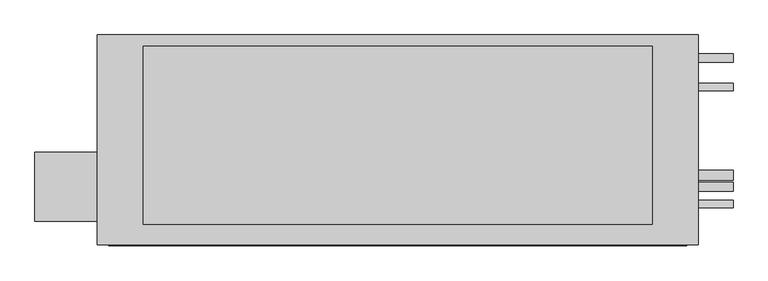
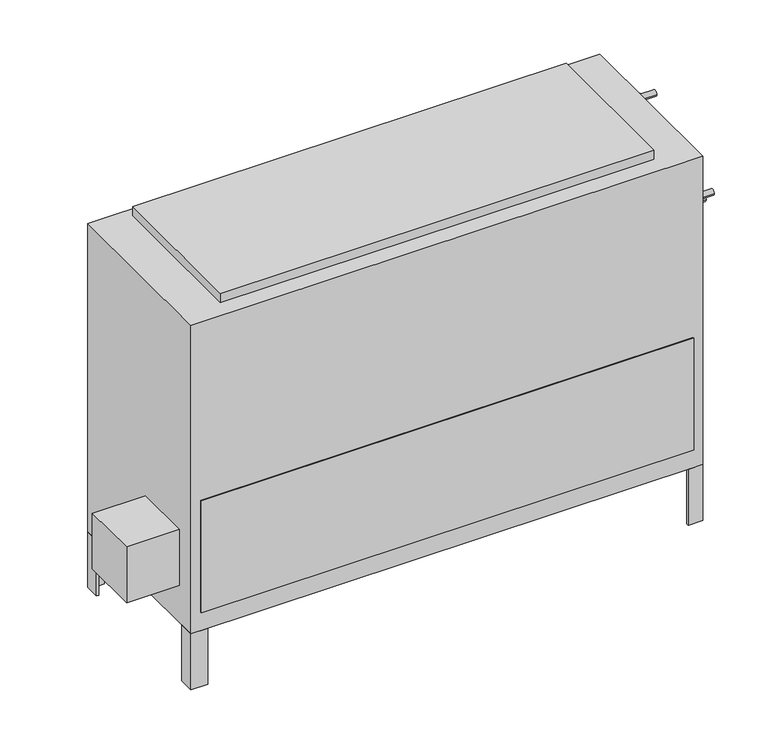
"""IFC4 building model written with IfcOpenShell, lengths in millimetres: proxy geometry, Concealed_High_Capacity_Vertical_Fan_Coil_Unit_-_42DDA_-_CARRIER_-_4-Pipe_RH_2022 : Size 18 - 277v/60Hz/1Ph - 4/2 Coil."""

import ifcopenshell
import ifcopenshell.guid

model = None  # the IFC model being written
_history = None  # IfcOwnerHistory: only IFC2X3 demands one
_inside = {}  # id of a spatial element -> (the spatial element, [elements in it])
_under = {}  # id of a project, library or spatial element -> (it, [spatial elements below it])
_declared = {}  # id of a project -> (the project, [libraries it declares])
_typed = {}  # id of a type object -> (the type object, [elements of that type])
_made_of = {}  # id of a material, layer set ... -> (it, [elements and type objects made of it])


def new_model(schema):
    """Start an empty IFC model of exactly this schema.

    Asked for "IFC4X3", IfcOpenShell would pick the latest addendum, in which some entities
    have other attributes; the version numbers below select the first issue.
    IFC2X3 requires an IfcOwnerHistory on every rooted entity: one is made here for all.
    """
    global model, _history
    if schema == "IFC4X3":
        model = ifcopenshell.file(schema_version=(4, 3, 0, 0))
    else:
        model = ifcopenshell.file(schema=schema)
    _inside.clear()
    _under.clear()
    _declared.clear()
    _typed.clear()
    _made_of.clear()
    _history = None
    if model.schema == "IFC2X3":
        org = make("IfcOrganization", Name="unknown")
        user = make(
            "IfcPersonAndOrganization",
            ThePerson=make("IfcPerson", FamilyName="unknown"),
            TheOrganization=org,
        )
        app = make(
            "IfcApplication",
            ApplicationDeveloper=org,
            Version="unknown",
            ApplicationFullName="unknown",
            ApplicationIdentifier="unknown",
        )
        _history = make(
            "IfcOwnerHistory",
            OwningUser=user,
            OwningApplication=app,
            ChangeAction="ADDED",
            CreationDate=0,
        )
    return model


def make(cls, **values):
    """One entity of the class cls with the attributes given. An attribute that is None is left unset."""
    return model.create_entity(
        cls, **{name: value for name, value in values.items() if value is not None}
    )


def rooted(cls, **values):
    """An entity with a GlobalId (a new one), such as an element, a storey or a relation."""
    return make(cls, GlobalId=ifcopenshell.guid.new(), OwnerHistory=_history, **values)


def si_unit(unit_type, name, prefix=None):
    """IfcSIUnit, for example si_unit("LENGTHUNIT", "METRE", prefix="MILLI")."""
    return make("IfcSIUnit", UnitType=unit_type, Prefix=prefix, Name=name)


def assignment(units):
    """IfcUnitAssignment: the units of a project."""
    return None if units is None else make("IfcUnitAssignment", Units=units)


def point(xyz):
    """IfcCartesianPoint."""
    return None if xyz is None else make("IfcCartesianPoint", Coordinates=xyz)


def direction(xyz):
    """IfcDirection."""
    return None if xyz is None else make("IfcDirection", DirectionRatios=xyz)


def frame(location, z_axis=None, x_axis=None):
    """IfcAxis2Placement3D, a coordinate frame: its origin and axes. An axis left out is left unset."""
    return make(
        "IfcAxis2Placement3D",
        Location=point(location),
        Axis=direction(z_axis),
        RefDirection=direction(x_axis),
    )


def frame_2d(location, x_axis=None):
    """IfcAxis2Placement2D, a coordinate frame in the plane: its origin and x axis."""
    return make(
        "IfcAxis2Placement2D", Location=point(location), RefDirection=direction(x_axis)
    )


def origin():
    """The frame at (0, 0, 0) with its axes left unset."""
    return frame((0.0, 0.0, 0.0))


def origin_with_axes():
    """The frame at (0, 0, 0) with the z axis (0, 0, 1) and the x axis (1, 0, 0) written out."""
    return frame((0.0, 0.0, 0.0), z_axis=(0.0, 0.0, 1.0), x_axis=(1.0, 0.0, 0.0))


def place(relative_to, where):
    """IfcLocalPlacement: puts the frame where relative to a parent placement (None: the world)."""
    return make(
        "IfcLocalPlacement", PlacementRelTo=relative_to, RelativePlacement=where
    )


def context(
    kind, dimensions, precision=None, world=None, true_north=None, identifier=None
):
    """IfcGeometricRepresentationContext, for example the 3D "Model" context."""
    return make(
        "IfcGeometricRepresentationContext",
        ContextIdentifier=identifier,
        ContextType=kind,
        CoordinateSpaceDimension=dimensions,
        Precision=precision,
        WorldCoordinateSystem=world,
        TrueNorth=true_north,
    )


def project(units=None, contexts=None):
    """IfcProject with its units and contexts."""
    return rooted(
        "IfcProject",
        Name="project",
        RepresentationContexts=contexts,
        UnitsInContext=assignment(units),
    )


def spatial(cls, under=None, at=None, **own):
    """A site, building, storey or space (cls), placed at a placement, below another one or the project."""
    s = rooted(cls, ObjectPlacement=at, **own)
    if under is not None:
        _under.setdefault(under.id(), (under, []))[1].append(s)
    return s


def polyline(points):
    """IfcPolyline through the points."""
    return make("IfcPolyline", Points=[point(p) for p in points])


def circle_curve(where, radius):
    """IfcCircle in the frame where."""
    return make("IfcCircle", Position=where, Radius=radius)


def trimmed(basis, trim1, trim2, sense, master):
    """IfcTrimmedCurve: the piece of a basis curve between two trims."""
    return make(
        "IfcTrimmedCurve",
        BasisCurve=basis,
        Trim1=trim1,
        Trim2=trim2,
        SenseAgreement=sense,
        MasterRepresentation=master,
    )


def segment(curve, same_sense, transition):
    """IfcCompositeCurveSegment."""
    return make(
        "IfcCompositeCurveSegment",
        Transition=transition,
        SameSense=same_sense,
        ParentCurve=curve,
    )


def composite_curve(segments, self_intersect=None):
    """IfcCompositeCurve: segments joined end to end."""
    return make("IfcCompositeCurve", Segments=segments, SelfIntersect=self_intersect)


def outline(outer, holes=None, kind="AREA"):
    """IfcArbitraryClosedProfileDef: a profile drawn as a closed curve; with holes, ...WithVoids."""
    if holes is None:
        return make("IfcArbitraryClosedProfileDef", ProfileType=kind, OuterCurve=outer)
    return make(
        "IfcArbitraryProfileDefWithVoids",
        ProfileType=kind,
        OuterCurve=outer,
        InnerCurves=holes,
    )


def extrude(swept, where, along, depth):
    """IfcExtrudedAreaSolid: the profile swept, set in the frame where, extruded along a direction by depth."""
    return make(
        "IfcExtrudedAreaSolid",
        SweptArea=swept,
        Position=where,
        ExtrudedDirection=direction(along),
        Depth=depth,
    )


def shape(context_of_items, identifier, shape_type, items):
    """IfcShapeRepresentation: the items that make up one representation, for example the "Body"."""
    return make(
        "IfcShapeRepresentation",
        ContextOfItems=context_of_items,
        RepresentationIdentifier=identifier,
        RepresentationType=shape_type,
        Items=items,
    )


def source(mapping_origin, context_of_items, identifier, shape_type, items):
    """IfcRepresentationMap: a shape defined once, which mapped items show again and again."""
    return make(
        "IfcRepresentationMap",
        MappingOrigin=mapping_origin,
        MappedRepresentation=shape(context_of_items, identifier, shape_type, items),
    )


def transform(
    local_origin,
    x_axis=None,
    y_axis=None,
    z_axis=None,
    scale=None,
    scale2=None,
    scale3=None,
    uniform=True,
):
    """IfcCartesianTransformationOperator3D, or its non-uniform kind. x_axis, y_axis, z_axis: its Axis1, 2, 3."""
    if uniform:
        return make(
            "IfcCartesianTransformationOperator3D",
            Axis1=direction(x_axis),
            Axis2=direction(y_axis),
            LocalOrigin=point(local_origin),
            Scale=scale,
            Axis3=direction(z_axis),
        )
    return make(
        "IfcCartesianTransformationOperator3DnonUniform",
        Axis1=direction(x_axis),
        Axis2=direction(y_axis),
        LocalOrigin=point(local_origin),
        Scale=scale,
        Axis3=direction(z_axis),
        Scale2=scale2,
        Scale3=scale3,
    )


def mapped(mapping_source, mapping_target):
    """IfcMappedItem: shows the shape of a source again, moved by a transform."""
    return make(
        "IfcMappedItem", MappingSource=mapping_source, MappingTarget=mapping_target
    )


def made_of(thing, what):
    """Note that an element or type object is made of a material, layer set ...; save() writes the relation."""
    if what is not None:
        _made_of.setdefault(what.id(), (what, []))[1].append(thing)
    return thing


def element(
    cls,
    number,
    at=None,
    inside=None,
    cuts=None,
    type_object=None,
    material=None,
    context=None,
    identifier="Body",
    shape_type=None,
    held_by="IfcProductDefinitionShape",
    body=None,
    shapes=None,
    **own,
):
    """One element of the class cls, such as IfcWall. Its Tag is "e" and its number.

    at: its placement. inside: the storey or other place that contains it. cuts: it is an
    opening in that element (IfcRelVoidsElement). A single representation is given by context,
    identifier, shape_type and body (its items); several are given by shapes. held_by: the class
    of the entity that holds the representations. save() writes the other relations.
    """
    e = rooted(cls, Tag="e%d" % number, ObjectPlacement=at, **own)
    if body is not None:
        shapes = [shape(context, identifier, shape_type, body)]
    if shapes is not None:
        e.Representation = make(held_by, Representations=shapes)
    if inside is not None:
        _inside.setdefault(inside.id(), (inside, []))[1].append(e)
    if cuts is not None:
        rooted(
            "IfcRelVoidsElement", RelatingBuildingElement=cuts, RelatedOpeningElement=e
        )
    if type_object is not None:
        _typed.setdefault(type_object.id(), (type_object, []))[1].append(e)
    return made_of(e, material)


def aggregate(whole, parts):
    """IfcRelAggregates: a whole, such as a stair, and the parts it consists of."""
    return rooted("IfcRelAggregates", RelatingObject=whole, RelatedObjects=parts)


def save(model, path):
    """Write the relations noted so far, then the file.

    IfcRelAggregates (storeys below a building ...), IfcRelContainedInSpatialStructure (elements
    in a storey), IfcRelDefinesByType, IfcRelAssociatesMaterial and IfcRelDeclares: one each for
    every whole, place, type object, material and project.
    """
    for whole, parts in _under.values():
        aggregate(whole, parts)
    for where, things in _inside.values():
        rooted(
            "IfcRelContainedInSpatialStructure",
            RelatedElements=things,
            RelatingStructure=where,
        )
    for kind, things in _typed.values():
        rooted("IfcRelDefinesByType", RelatedObjects=things, RelatingType=kind)
    for what, things in _made_of.values():
        rooted("IfcRelAssociatesMaterial", RelatedObjects=things, RelatingMaterial=what)
    for by, libraries in _declared.values():
        rooted("IfcRelDeclares", RelatingContext=by, RelatedDefinitions=libraries)
    model.write(path)


def mechanical_equipment_7676ee39(model_context):
    return source(origin(), model_context, "Body", "SweptSolid", [
        extrude(outline(polyline([(-644.525, -417.5125), (-644.525, -265.1125), (-508.0, -265.1125), (-508.0, -417.5125), (-644.525, -417.5125)])), frame((0.0, 0.0, 101.6), z_axis=(0.0, 0.0, 1.0), x_axis=(1.0, 0.0, 0.0)), (0.0, 0.0, 1.0), 152.4),
        extrude(outline(polyline([(812.8, -46.0375), (806.45, -46.0375), (806.45, -14.2875), (774.7, -14.2875), (774.7, -7.9375), (812.8, -7.9375), (812.8, -46.0375)])), frame((0.0, 0.0, -152.4), z_axis=(0.0, 0.0, 1.0), x_axis=(1.0, 0.0, 0.0)), (0.0, 0.0, 1.0), 152.4),
        extrude(outline(polyline([(-469.9, -7.9375), (-469.9, -14.2875), (-501.65, -14.2875), (-501.65, -46.0375), (-508.0, -46.0375), (-508.0, -7.9375), (-469.9, -7.9375)])), frame((0.0, 0.0, -152.4), z_axis=(0.0, 0.0, 1.0), x_axis=(1.0, 0.0, 0.0)), (0.0, 0.0, 1.0), 152.4),
        extrude(outline(polyline([(774.7, -468.3125), (774.7, -461.9625), (806.45, -461.9625), (806.45, -430.2125), (812.8, -430.2125), (812.8, -468.3125), (774.7, -468.3125)])), frame((0.0, 0.0, -152.4), z_axis=(0.0, 0.0, 1.0), x_axis=(1.0, 0.0, 0.0)), (0.0, 0.0, 1.0), 152.4),
        extrude(outline(polyline([(-508.0, -428.1199163), (-501.65, -428.1199163), (-501.65, -461.9625), (-464.5318533, -461.9625), (-464.5318533, -468.3125), (-508.0, -468.3125), (-508.0, -428.1199163)])), frame((0.0, 0.0, -152.4), z_axis=(0.0, 0.0, 1.0), x_axis=(1.0, 0.0, 0.0)), (0.0, 0.0, 1.0), 152.4),
        extrude(outline(polyline([(711.2, -33.3375), (711.2, -423.8625), (-406.4, -423.8625), (-406.4, -33.3375), (711.2, -33.3375)])), frame((0.0, 0.0, 841.375), z_axis=(0.0, 0.0, 1.0), x_axis=(1.0, 0.0, 0.0)), (0.0, 0.0, 1.0), 25.4),
        extrude(outline(polyline([(787.4, -471.4875), (-482.6, -471.4875), (-482.6, -468.3125), (787.4, -468.3125), (787.4, -471.4875)])), frame((0.0, 0.0, 50.8), z_axis=(0.0, 0.0, 1.0), x_axis=(1.0, 0.0, 0.0)), (0.0, 0.0, 1.0), 304.8),
        extrude(outline(composite_curve([segment(trimmed(circle_curve(frame_2d((-122.2375, 777.875)), 7.9375), [point((-114.3, 777.875))], [point((-130.175, 777.875))], False, "CARTESIAN"), True, "CONTINUOUS"), segment(trimmed(circle_curve(frame_2d((-122.2375, 777.875)), 7.9375), [point((-130.175, 777.875))], [point((-114.3, 777.875))], False, "CARTESIAN"), True, "CONTINUOUS")], self_intersect=False)), frame((812.8, 0.0, 0.0), z_axis=(1.0, 0.0, 0.0), x_axis=(0.0, 1.0, 0.0)), (0.0, 0.0, 1.0), 76.2),
        extrude(outline(composite_curve([segment(trimmed(circle_curve(frame_2d((-379.4125, 663.575)), 7.9375), [point((-371.475, 663.575))], [point((-387.35, 663.575))], False, "CARTESIAN"), True, "CONTINUOUS"), segment(trimmed(circle_curve(frame_2d((-379.4125, 663.575)), 7.9375), [point((-387.35, 663.575))], [point((-371.475, 663.575))], False, "CARTESIAN"), True, "CONTINUOUS")], self_intersect=False)), frame((812.8, 0.0, 0.0), z_axis=(1.0, 0.0, 0.0), x_axis=(0.0, 1.0, 0.0)), (0.0, 0.0, 1.0), 76.2),
        extrude(outline(composite_curve([segment(trimmed(circle_curve(frame_2d((-58.7375, 727.075)), 9.525), [point((-49.2125, 727.075))], [point((-68.2625, 727.075))], False, "CARTESIAN"), True, "CONTINUOUS"), segment(trimmed(circle_curve(frame_2d((-58.7375, 727.075)), 9.525), [point((-68.2625, 727.075))], [point((-49.2125, 727.075))], False, "CARTESIAN"), True, "CONTINUOUS")], self_intersect=False)), frame((812.8, 0.0, 0.0), z_axis=(1.0, 0.0, 0.0), x_axis=(0.0, 1.0, 0.0)), (0.0, 0.0, 1.0), 76.2),
        extrude(outline(composite_curve([segment(trimmed(circle_curve(frame_2d((-341.3125, 625.475)), 9.525), [point((-331.7875, 625.475))], [point((-350.8375, 625.475))], False, "CARTESIAN"), True, "CONTINUOUS"), segment(trimmed(circle_curve(frame_2d((-341.3125, 625.475)), 9.525), [point((-350.8375, 625.475))], [point((-331.7875, 625.475))], False, "CARTESIAN"), True, "CONTINUOUS")], self_intersect=False)), frame((812.8, 0.0, 0.0), z_axis=(1.0, 0.0, 0.0), x_axis=(0.0, 1.0, 0.0)), (0.0, 0.0, 1.0), 76.2),
        extrude(outline(composite_curve([segment(trimmed(circle_curve(frame_2d((-315.9125, 536.575)), 11.1125), [point((-304.8, 536.575))], [point((-327.025, 536.575))], False, "CARTESIAN"), True, "CONTINUOUS"), segment(trimmed(circle_curve(frame_2d((-315.9125, 536.575)), 11.1125), [point((-327.025, 536.575))], [point((-304.8, 536.575))], False, "CARTESIAN"), True, "CONTINUOUS")], self_intersect=False)), frame((812.8, 0.0, 0.0), z_axis=(1.0, 0.0, 0.0), x_axis=(0.0, 1.0, 0.0)), (0.0, 0.0, 1.0), 76.2),
        extrude(outline(polyline([(812.8, -7.9375), (812.8, -468.3125), (-508.0, -468.3125), (-508.0, -7.9375), (812.8, -7.9375)])), origin_with_axes(), (0.0, 0.0, 1.0), 841.375),
    ])


if __name__ == "__main__":
    model = new_model("IFC4")
    model_context = context("Model", 3, world=origin())
    ifc_project = project(units=[si_unit("LENGTHUNIT", "METRE", prefix="MILLI")], contexts=[model_context])
    site = spatial("IfcSite", under=ifc_project)
    building = spatial("IfcBuilding", under=site)
    placement = place(None, origin())
    mechanical_equipment_shape = mechanical_equipment_7676ee39(model_context)
    element("IfcBuildingElementProxy", 1, Name="Concealed_High_Capacity_Vertical_Fan_Coil_Unit_-_42DDA_-_CARRIER_-_4-Pipe_RH_2022 : Size 18 - 277v/60Hz/1Ph - 4/2 Coil", ObjectType="Concealed_High_Capacity_Vertical_Fan_Coil_Unit_-_42DDA_-_CARRIER_-_4-Pipe_RH_2022 : Size 18 - 277v/60Hz/1Ph - 4/2 Coil", at=placement, inside=building, context=model_context, shape_type="MappedRepresentation", body=[
        mapped(mechanical_equipment_shape, transform((0.0, 0.0, 0.0), x_axis=(1.0, 0.0, 0.0), y_axis=(0.0, 1.0, 0.0), z_axis=(0.0, 0.0, 1.0))),
    ])
    save(model, "model.ifc")
